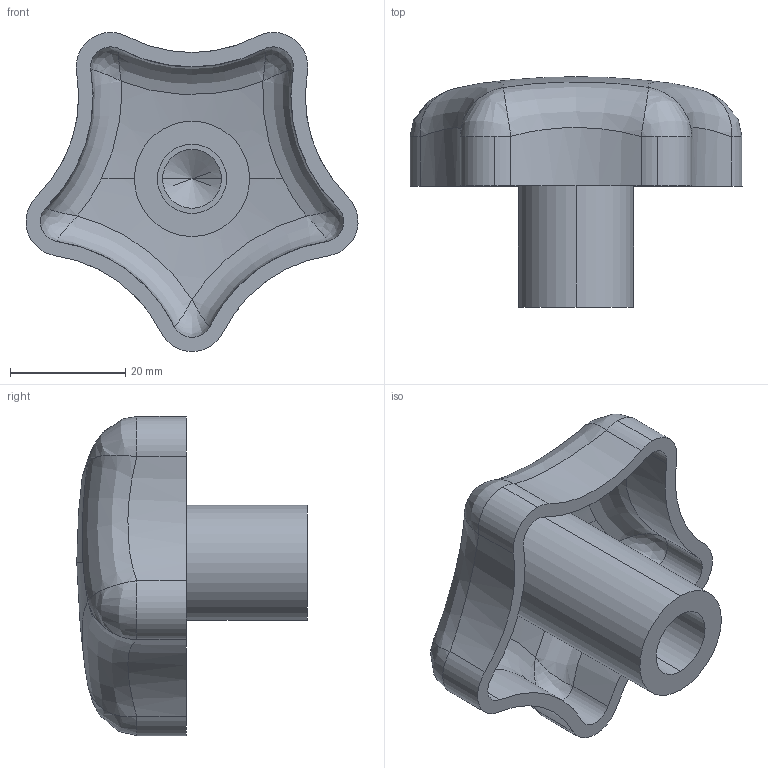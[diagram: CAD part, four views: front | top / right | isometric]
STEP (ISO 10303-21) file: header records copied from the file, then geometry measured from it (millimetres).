
FILE_DESCRIPTION (( 'STEP AP203' ), '1' );
FILE_NAME ('7016.W460.step', '2010-01-31T12:13:23', ( 'Wixroyd' ), ( 'Wixroyd' ), 'SwSTEP 2.0', 'SolidWorks 2009', '' );
FILE_SCHEMA (( 'CONFIG_CONTROL_DESIGN' ));
Length unit declared in the file: millimetre
Products named in the file (1): 7016.W460
Bounding box: 57.63 x 40 x 55.39 mm (x, y, z)
Volume: 18788 mm3; surface area: 12118.4 mm2
Topology: 1 solids, 1 shells, 59 faces, 146 edges, 80 vertices
Faces by surface type: cylinder 30, bspline 20, sphere 4, plane 3, cone 2
Entity records: 14037 total; most frequent: CARTESIAN_POINT 12740, ORIENTED_EDGE 268, DIRECTION 228, EDGE_CURVE 134, AXIS2_PLACEMENT_3D 98, VERTEX_POINT 80, EDGE_LOOP 62, ADVANCED_FACE 59
